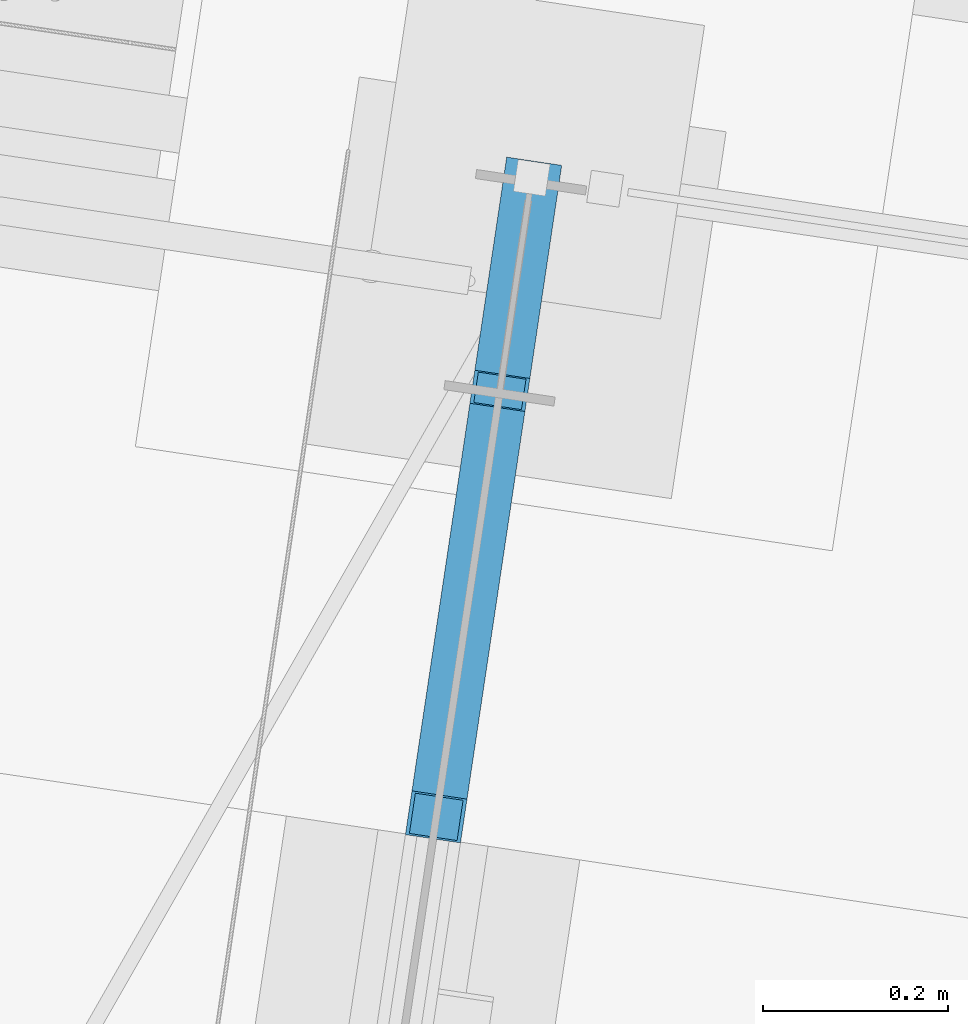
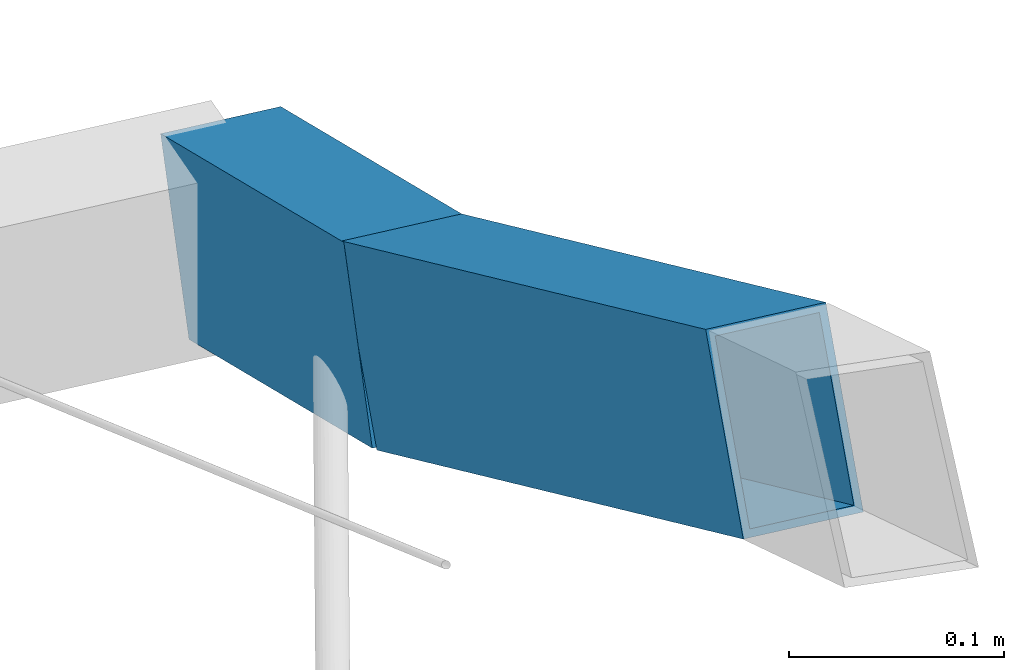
# One storey, part 116 of 143: 2 members, 1 element without a shape of its own.
"""IFC4 building model written with IfcOpenShell, lengths in metres."""

from ifc_helpers import new_model, si_unit, direction, frame, origin_with_axes, place, context, subcontext, project, spatial, hollow_rectangle, extrude, material, material_profile, profile_set, profile_usage, type_object, element, aggregate, save


model = new_model("IFC4")

# Units and contexts
model_context = context("Model", 3, precision=1e-05, world=origin_with_axes(), true_north=direction((0.0, 1.0)))
body_context = subcontext(model_context, "Body", "Model", "MODEL_VIEW")
ifc_project = project(units=[si_unit("VOLUMEUNIT", "CUBIC_METRE"), si_unit("LENGTHUNIT", "METRE"), si_unit("AREAUNIT", "SQUARE_METRE")], contexts=[model_context])

# Site, building, storey
site_placement = place(None, origin_with_axes())
site = spatial("IfcSite", under=ifc_project, at=site_placement, Name="Lares · Rua das Mercês · artigo 4771")
building_placement = place(site_placement, frame((15.0, 9.7, 15.8), z_axis=(0.0, 0.0, 1.0), x_axis=(0.989015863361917, -0.147809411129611, 0.0)))
building = spatial("IfcBuilding", under=site, at=building_placement, Name="Casa Sobreposta")
storey_placement = place(building_placement, origin_with_axes())
storey = spatial("IfcBuildingStorey", under=building, at=storey_placement, Name="00 · Habitação e estacionamento", Elevation=15.8)

# Assembly, members
assembly_placement = place(storey_placement, origin_with_axes())
assembly = element("IfcElementAssembly", 1, at=assembly_placement, inside=storey, Name="Pérgola · prolongamento da estufa 6 m", ObjectType="PERGOLA_GREENHOUSE_EXTENSION", PredefinedType="USERDEFINED")
ifc_material = material(Name="Aço pintado / Stahl lackiert", Category="steel")
ifc_material_profile = material_profile(ifc_material, hollow_rectangle(XDim=0.06, YDim=0.1, WallThickness=0.004))
ifc_profile_set = profile_set([ifc_material_profile], Name="RHS100x60x4")
ifc_profile_usage_1 = profile_usage(ifc_profile_set)
member_type = type_object("IfcMemberType", Name="RHS100x60x4 / steel", PredefinedType="NOTDEFINED", material=ifc_profile_set)
member_1_placement = place(assembly_placement, frame((0.0, 5.70303916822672, 6.57620268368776), z_axis=(0.0, 0.878867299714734, -0.477066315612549), x_axis=(1.0, 0.0, 0.0)))
member_1 = element("IfcMember", 2, at=member_1_placement, type_object=member_type, material=ifc_profile_usage_1, Name="Pérgola · arco contínuo com a estufa", context=body_context, shape_type="SweptSolid", body=[
    extrude(hollow_rectangle(XDim=0.06, YDim=0.1, WallThickness=0.004), origin_with_axes(), (0.0, 0.0, 1.0), 0.52859183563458),
])
ifc_profile_usage_2 = profile_usage(ifc_profile_set)
member_2_placement = place(assembly_placement, frame((0.0, 6.16760124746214, 6.3240293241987), z_axis=(0.0, 0.932880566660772, -0.360185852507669), x_axis=(1.0, 0.0, 0.0)))
member_2 = element("IfcMember", 3, at=member_2_placement, type_object=member_type, material=ifc_profile_usage_2, Name="Pérgola · arco contínuo com a estufa", context=body_context, shape_type="SweptSolid", body=[
    extrude(hollow_rectangle(XDim=0.06, YDim=0.1, WallThickness=0.004), origin_with_axes(), (0.0, 0.0, 1.0), 0.249119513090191),
])
aggregate(assembly, [member_1, member_2])

save(model, "model.ifc")
